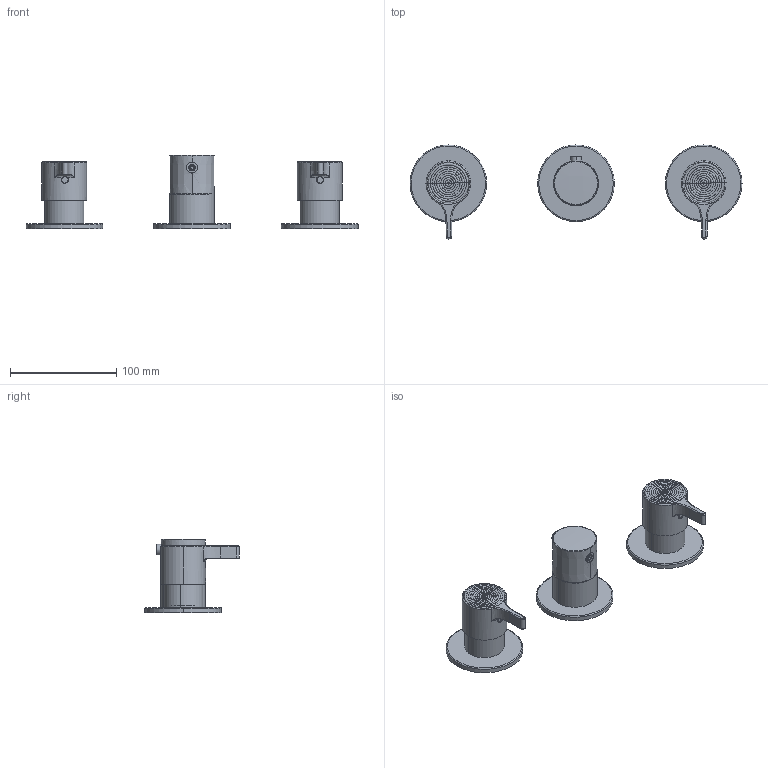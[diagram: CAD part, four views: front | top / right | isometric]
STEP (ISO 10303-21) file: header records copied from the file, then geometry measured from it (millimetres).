
FILE_DESCRIPTION (( 'STEP AP203' ), '1' );
FILE_NAME ('GGE50.STEP', '2023-12-21T16:16:14', ( '' ), ( '' ), 'SwSTEP 2.0', 'SolidWorks 2023', '' );
FILE_SCHEMA (( 'CONFIG_CONTROL_DESIGN' ));
Length unit declared in the file: millimetre
Products named in the file (18): anello cromo_2A010025_002A.01.025_5; C24.2493.00.1; perni_D3000126_D3000126_6; C47.00.0023.01; C11.10.0045; C11.14.0009; C24.2690.00; ASSIEME MANIGLIA DEVIATORE ALTA PORTATA; or 6 x 1.5_13000495_5; man cilindrica 42 zama_G801D065_G801D065_5; Grano M5 x 6 punta piatta_Grano M5 x 6 punta piatta_5; molla_91000075_91000075_5; C24.2494.00.1; C21.2432.00.0; bottone_0083.01.285_0083.01.285_5; SIXTY_G801D625_BOM_5; GGE50; adattatore_G801D055_G801D055_5
Assembly tree (20 placements, depth 3):
  GGE50
    SIXTY_G801D625_BOM_5
      man cilindrica 42 zama_G801D065_G801D065_5
      molla_91000075_91000075_5
      bottone_0083.01.285_0083.01.285_5
      perni_D3000126_D3000126_6
      Grano M5 x 6 punta piatta_Grano M5 x 6 punta piatta_5
      or 6 x 1.5_13000495_5
    anello cromo_2A010025_002A.01.025_5
    adattatore_G801D055_G801D055_5  x2
    ASSIEME MANIGLIA DEVIATORE ALTA PORTATA  x2
      C24.2690.00
      C11.10.0045
      C21.2432.00.0
      C11.14.0009
      C47.00.0023.01
    C24.2493.00.1
    C24.2494.00.1  x2
Bounding box: 312 x 88.5 x 69.24 mm (x, y, z)
Volume: 118833.7 mm3; surface area: 95274.9 mm2
Topology: 21 solids, 23 shells, 826 faces, 1998 edges, 1241 vertices
Faces by surface type: plane 303, cylinder 212, cone 126, torus 98, bspline 83, sphere 4
Entity records: 22165 total; most frequent: CARTESIAN_POINT 6886, DIRECTION 2842, ORIENTED_EDGE 2782, EDGE_CURVE 1392, AXIS2_PLACEMENT_3D 1157, VERTEX_POINT 868, EDGE_LOOP 623, CIRCLE 619
